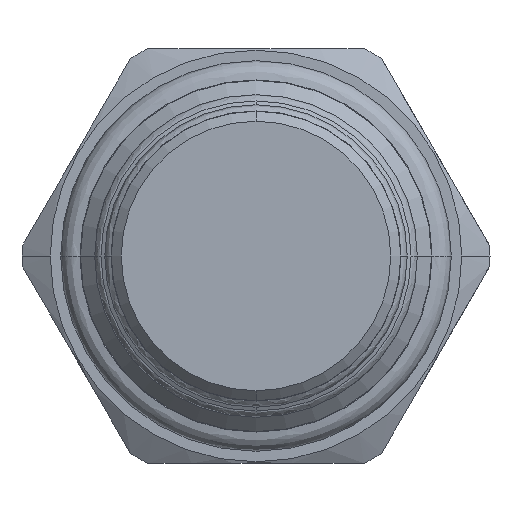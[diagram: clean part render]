
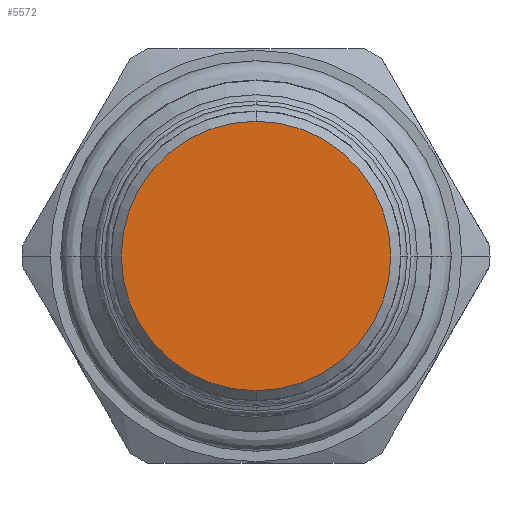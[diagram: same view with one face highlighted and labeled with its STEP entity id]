
A CAD part, front view. The second image highlights one B-rep face of the part: STEP entity #5572.
In plain terms, the highlighted planar face has unit normal (0, -1, 0).
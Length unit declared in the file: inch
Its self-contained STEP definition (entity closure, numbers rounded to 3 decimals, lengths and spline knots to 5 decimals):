
#1814=CARTESIAN_POINT('',(0.,-2.7795,0.));
#1815=DIRECTION('',(0.,1.,0.));
#1816=DIRECTION('',(0.,0.,-1.));
#1817=AXIS2_PLACEMENT_3D('',#1814,#1815,#1816);
#1824=CARTESIAN_POINT('',(0.,-2.7795,0.));
#1825=DIRECTION('',(0.,1.,0.));
#1826=DIRECTION('',(0.,0.,1.));
#1827=AXIS2_PLACEMENT_3D('',#1824,#1825,#1826);
#3210=CARTESIAN_POINT('',(0.,-2.7795,-0.406));
#3211=CARTESIAN_POINT('',(0.,-2.7795,0.406));
#3212=VERTEX_POINT('',#3210);
#3213=VERTEX_POINT('',#3211);
#5562=CARTESIAN_POINT('',(0.,-2.7795,0.));
#5563=DIRECTION('',(0.,-1.,0.));
#5564=DIRECTION('',(0.,0.,-1.));
#5565=AXIS2_PLACEMENT_3D('',#5562,#5563,#5564);
#5566=PLANE('',#5565);
#5568=ORIENTED_EDGE('',*,*,#5567,.T.);
#5569=ORIENTED_EDGE('',*,*,#5552,.T.);
#5570=EDGE_LOOP('',(#5568,#5569));
#5571=FACE_OUTER_BOUND('',#5570,.F.);
#5572=ADVANCED_FACE('',(#5571),#5566,.T.);
#1818=CIRCLE('',#1817,0.406);
#1828=CIRCLE('',#1827,0.406);
#5552=EDGE_CURVE('',#3212,#3213,#1818,.T.);
#5567=EDGE_CURVE('',#3213,#3212,#1828,.T.);
